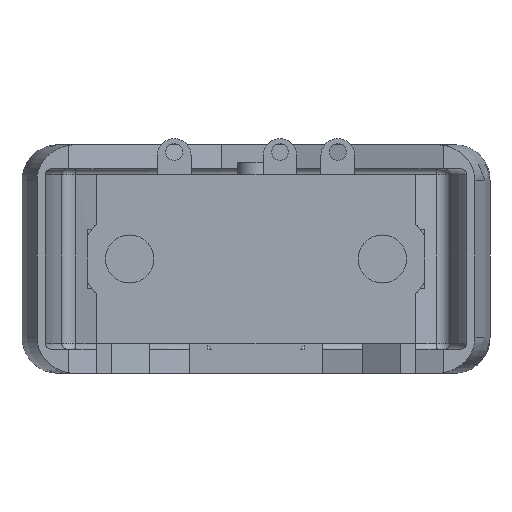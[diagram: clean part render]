
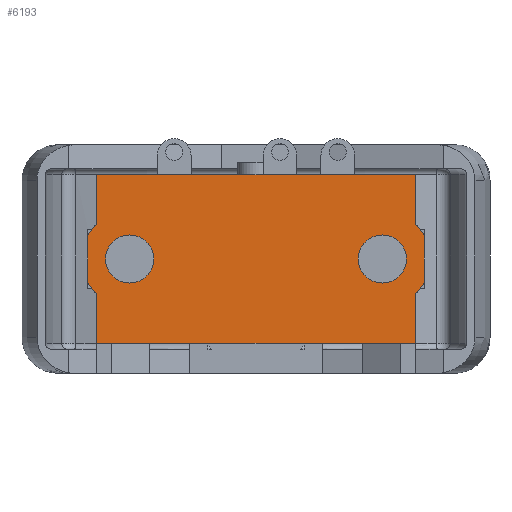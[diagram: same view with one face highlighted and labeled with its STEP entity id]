
A CAD part, front view. The second image highlights one B-rep face of the part: STEP entity #6193.
In plain terms, the highlighted planar face has unit normal (0, -1, 0).
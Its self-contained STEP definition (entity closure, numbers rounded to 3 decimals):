
#179 = VERTEX_POINT ( 'NONE', #8505 ) ;
#182 = VERTEX_POINT ( 'NONE', #11147 ) ;
#271 = AXIS2_PLACEMENT_3D ( 'NONE', #3691, #8897, #13844 ) ;
#506 = CIRCLE ( 'NONE', #2714, 4. ) ;
#727 = DIRECTION ( 'NONE',  ( 1., 0., 0. ) ) ;
#873 = EDGE_CURVE ( 'NONE', #8492, #15958, #4449, .T. ) ;
#893 = LINE ( 'NONE', #10120, #10368 ) ;
#1012 = ORIENTED_EDGE ( 'NONE', *, *, #10405, .F. ) ;
#1047 = EDGE_CURVE ( 'NONE', #7164, #7164, #10204, .T. ) ;
#1096 = CARTESIAN_POINT ( 'NONE',  ( -13.25, 0., -2.905 ) ) ;
#1126 = CARTESIAN_POINT ( 'NONE',  ( -13.25, 0., -7. ) ) ;
#1172 = CARTESIAN_POINT ( 'NONE',  ( -13.25, 0., 2.905 ) ) ;
#1218 = ORIENTED_EDGE ( 'NONE', *, *, #15129, .T. ) ;
#1265 = CARTESIAN_POINT ( 'NONE',  ( 13.25, 0., 7. ) ) ;
#1394 = ORIENTED_EDGE ( 'NONE', *, *, #1047, .F. ) ;
#1679 = VERTEX_POINT ( 'NONE', #13522 ) ;
#1756 = EDGE_LOOP ( 'NONE', ( #15807, #12644, #1218, #8509, #2041, #11695, #3358, #8394, #2093, #10077, #6731, #10408 ) ) ;
#1946 = DIRECTION ( 'NONE',  ( 0., -1., 0. ) ) ;
#2041 = ORIENTED_EDGE ( 'NONE', *, *, #10839, .F. ) ;
#2093 = ORIENTED_EDGE ( 'NONE', *, *, #14554, .T. ) ;
#2186 = VERTEX_POINT ( 'NONE', #11361 ) ;
#2486 = PLANE ( 'NONE',  #13933 ) ;
#2538 = CARTESIAN_POINT ( 'NONE',  ( 13.25, 0., 2.905 ) ) ;
#2714 = AXIS2_PLACEMENT_3D ( 'NONE', #10231, #5364, #15780 ) ;
#2991 = EDGE_CURVE ( 'NONE', #2186, #7983, #4076, .T. ) ;
#3236 = CARTESIAN_POINT ( 'NONE',  ( -13.25, 0., 7. ) ) ;
#3249 = AXIS2_PLACEMENT_3D ( 'NONE', #13642, #1946, #7160 ) ;
#3358 = ORIENTED_EDGE ( 'NONE', *, *, #873, .T. ) ;
#3616 = LINE ( 'NONE', #10095, #4113 ) ;
#3670 = CARTESIAN_POINT ( 'NONE',  ( -13.25, 0., 7. ) ) ;
#3691 = CARTESIAN_POINT ( 'NONE',  ( 10.5, 0., 0. ) ) ;
#3979 = EDGE_CURVE ( 'NONE', #9575, #1679, #506, .T. ) ;
#4076 = CIRCLE ( 'NONE', #3249, 4. ) ;
#4113 = VECTOR ( 'NONE', #8819, 1000. ) ;
#4209 = EDGE_LOOP ( 'NONE', ( #1012 ) ) ;
#4379 = CARTESIAN_POINT ( 'NONE',  ( 13.25, 0., 7. ) ) ;
#4449 = LINE ( 'NONE', #14855, #10729 ) ;
#4681 = CARTESIAN_POINT ( 'NONE',  ( 10.5, 0., -2. ) ) ;
#5207 = VECTOR ( 'NONE', #727, 1000. ) ;
#5364 = DIRECTION ( 'NONE',  ( 0., -1., 0. ) ) ;
#5421 = CIRCLE ( 'NONE', #15502, 4. ) ;
#5483 = VECTOR ( 'NONE', #12091, 1000. ) ;
#5869 = EDGE_CURVE ( 'NONE', #9575, #9921, #11298, .T. ) ;
#5916 = AXIS2_PLACEMENT_3D ( 'NONE', #9682, #9521, #16015 ) ;
#6025 = DIRECTION ( 'NONE',  ( 0., 0., -1. ) ) ;
#6083 = DIRECTION ( 'NONE',  ( 0., -1., 0. ) ) ;
#6193 = ADVANCED_FACE ( 'NONE', ( #15281, #8876, #11255 ), #2486, .F. ) ;
#6350 = DIRECTION ( 'NONE',  ( 1., 0., 0. ) ) ;
#6366 = VERTEX_POINT ( 'NONE', #1265 ) ;
#6612 = EDGE_CURVE ( 'NONE', #8492, #6366, #13720, .T. ) ;
#6731 = ORIENTED_EDGE ( 'NONE', *, *, #15682, .T. ) ;
#6985 = LINE ( 'NONE', #13725, #5483 ) ;
#7112 = EDGE_LOOP ( 'NONE', ( #1394 ) ) ;
#7160 = DIRECTION ( 'NONE',  ( 0., 0., -1. ) ) ;
#7164 = VERTEX_POINT ( 'NONE', #4681 ) ;
#7235 = CARTESIAN_POINT ( 'NONE',  ( -13.25, 0., 7. ) ) ;
#7318 = CARTESIAN_POINT ( 'NONE',  ( 13.25, 0., -7. ) ) ;
#7547 = VECTOR ( 'NONE', #9580, 1000. ) ;
#7983 = VERTEX_POINT ( 'NONE', #2538 ) ;
#8379 = DIRECTION ( 'NONE',  ( 0., 0., -1. ) ) ;
#8394 = ORIENTED_EDGE ( 'NONE', *, *, #12857, .T. ) ;
#8395 = LINE ( 'NONE', #10250, #12796 ) ;
#8492 = VERTEX_POINT ( 'NONE', #3236 ) ;
#8503 = DIRECTION ( 'NONE',  ( 0., 0., 1. ) ) ;
#8505 = CARTESIAN_POINT ( 'NONE',  ( -14., 0., 1.936 ) ) ;
#8509 = ORIENTED_EDGE ( 'NONE', *, *, #2991, .T. ) ;
#8707 = DIRECTION ( 'NONE',  ( 0., 0., 1. ) ) ;
#8764 = DIRECTION ( 'NONE',  ( 0., -1., 0. ) ) ;
#8819 = DIRECTION ( 'NONE',  ( 0., 0., 1. ) ) ;
#8876 = FACE_BOUND ( 'NONE', #4209, .T. ) ;
#8897 = DIRECTION ( 'NONE',  ( 0., -1., 0. ) ) ;
#9113 = VERTEX_POINT ( 'NONE', #12005 ) ;
#9521 = DIRECTION ( 'NONE',  ( 0., -1., 0. ) ) ;
#9575 = VERTEX_POINT ( 'NONE', #11888 ) ;
#9580 = DIRECTION ( 'NONE',  ( 0., 0., -1. ) ) ;
#9682 = CARTESIAN_POINT ( 'NONE',  ( -10.5, 0., 0. ) ) ;
#9921 = VERTEX_POINT ( 'NONE', #7318 ) ;
#10077 = ORIENTED_EDGE ( 'NONE', *, *, #13572, .T. ) ;
#10095 = CARTESIAN_POINT ( 'NONE',  ( 14., 0., 1.936 ) ) ;
#10120 = CARTESIAN_POINT ( 'NONE',  ( -14., 0., 1.936 ) ) ;
#10204 = CIRCLE ( 'NONE', #271, 2. ) ;
#10231 = CARTESIAN_POINT ( 'NONE',  ( 10.5, 0., 0. ) ) ;
#10250 = CARTESIAN_POINT ( 'NONE',  ( -13.25, 0., -7. ) ) ;
#10368 = VECTOR ( 'NONE', #14054, 1000. ) ;
#10405 = EDGE_CURVE ( 'NONE', #9113, #9113, #10532, .T. ) ;
#10408 = ORIENTED_EDGE ( 'NONE', *, *, #14006, .T. ) ;
#10532 = CIRCLE ( 'NONE', #5916, 2. ) ;
#10729 = VECTOR ( 'NONE', #8379, 1000. ) ;
#10839 = EDGE_CURVE ( 'NONE', #6366, #7983, #16081, .T. ) ;
#11147 = CARTESIAN_POINT ( 'NONE',  ( -14., 0., -1.936 ) ) ;
#11229 = CARTESIAN_POINT ( 'NONE',  ( -10.5, 0., 0. ) ) ;
#11255 = FACE_OUTER_BOUND ( 'NONE', #1756, .T. ) ;
#11298 = LINE ( 'NONE', #11383, #11669 ) ;
#11361 = CARTESIAN_POINT ( 'NONE',  ( 14., 0., 1.936 ) ) ;
#11383 = CARTESIAN_POINT ( 'NONE',  ( 13.25, 0., 7. ) ) ;
#11594 = DIRECTION ( 'NONE',  ( 0., 1., 0. ) ) ;
#11669 = VECTOR ( 'NONE', #6025, 1000. ) ;
#11695 = ORIENTED_EDGE ( 'NONE', *, *, #6612, .F. ) ;
#11888 = CARTESIAN_POINT ( 'NONE',  ( 13.25, 0., -2.905 ) ) ;
#12005 = CARTESIAN_POINT ( 'NONE',  ( -10.5, 0., -2. ) ) ;
#12091 = DIRECTION ( 'NONE',  ( 0., 0., -1. ) ) ;
#12644 = ORIENTED_EDGE ( 'NONE', *, *, #3979, .T. ) ;
#12796 = VECTOR ( 'NONE', #6350, 1000. ) ;
#12857 = EDGE_CURVE ( 'NONE', #15958, #179, #14142, .T. ) ;
#13308 = AXIS2_PLACEMENT_3D ( 'NONE', #15110, #6083, #16582 ) ;
#13522 = CARTESIAN_POINT ( 'NONE',  ( 14., 0., -1.936 ) ) ;
#13572 = EDGE_CURVE ( 'NONE', #182, #15846, #5421, .T. ) ;
#13642 = CARTESIAN_POINT ( 'NONE',  ( 10.5, 0., 0. ) ) ;
#13720 = LINE ( 'NONE', #7235, #5207 ) ;
#13725 = CARTESIAN_POINT ( 'NONE',  ( -13.25, 0., 7. ) ) ;
#13844 = DIRECTION ( 'NONE',  ( 0., 0., -1. ) ) ;
#13933 = AXIS2_PLACEMENT_3D ( 'NONE', #3670, #11594, #8707 ) ;
#13939 = VERTEX_POINT ( 'NONE', #1126 ) ;
#14006 = EDGE_CURVE ( 'NONE', #13939, #9921, #8395, .T. ) ;
#14054 = DIRECTION ( 'NONE',  ( 0., 0., -1. ) ) ;
#14142 = CIRCLE ( 'NONE', #13308, 4. ) ;
#14554 = EDGE_CURVE ( 'NONE', #179, #182, #893, .T. ) ;
#14855 = CARTESIAN_POINT ( 'NONE',  ( -13.25, 0., 7. ) ) ;
#15110 = CARTESIAN_POINT ( 'NONE',  ( -10.5, 0., 0. ) ) ;
#15129 = EDGE_CURVE ( 'NONE', #1679, #2186, #3616, .T. ) ;
#15281 = FACE_BOUND ( 'NONE', #7112, .T. ) ;
#15502 = AXIS2_PLACEMENT_3D ( 'NONE', #11229, #8764, #8503 ) ;
#15682 = EDGE_CURVE ( 'NONE', #15846, #13939, #6985, .T. ) ;
#15780 = DIRECTION ( 'NONE',  ( 0., 0., -1. ) ) ;
#15807 = ORIENTED_EDGE ( 'NONE', *, *, #5869, .F. ) ;
#15846 = VERTEX_POINT ( 'NONE', #1096 ) ;
#15958 = VERTEX_POINT ( 'NONE', #1172 ) ;
#16015 = DIRECTION ( 'NONE',  ( 0., 0., -1. ) ) ;
#16081 = LINE ( 'NONE', #4379, #7547 ) ;
#16582 = DIRECTION ( 'NONE',  ( 0., 0., 1. ) ) ;
